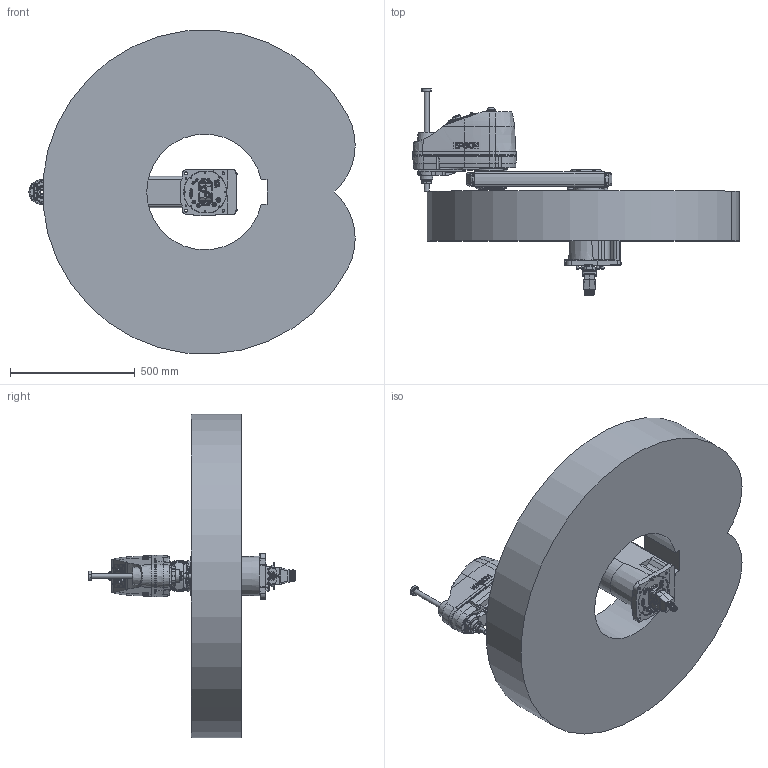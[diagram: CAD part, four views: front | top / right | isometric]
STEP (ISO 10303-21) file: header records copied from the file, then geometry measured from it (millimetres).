
FILE_DESCRIPTION( ( 'STEP AP214' ), '1' );
FILE_NAME( 'C:/Users/9607552/Desktop/GX8-B652SB_straight.stp', '2023-07-07T02:54:56', ( '' ), ( '' ), ' ', 'PARTsolutions', ' ' );
FILE_SCHEMA( ( 'AUTOMOTIVE_DESIGN { 1 0 10303 214 1 1 1 1 }' ) );
Length unit declared in the file: millimetre
Products named in the file (9): GX8-B652SB-SW; _B452SBbasegx8; _B652Sj1arm; _GX8-B652SBj1arm2; _GX8-B652SBj1arm1; _B452S_J2; _B452SZA; _Straight-B; _GX8-25-B_WS
Assembly tree (10 placements, depth 2):
  GX8-B652SB-SW
    _B452SBbasegx8
    _B652Sj1arm
    _GX8-B652SBj1arm2  x2
    _GX8-B652SBj1arm1  x2
    _B452S_J2
    _B452SZA
    _Straight-B
    _GX8-25-B_WS
Bounding box: 1308.1 x 826.85 x 1298.02 mm (x, y, z)
Volume: 249466526.1 mm3; surface area: 4515569.9 mm2
Topology: 10 solids, 11 shells, 2953 faces, 7258 edges, 4739 vertices
Faces by surface type: plane 1469, cylinder 934, cone 386, torus 121, bspline 37, sphere 6
Full cylindrical faces by diameter (mm): 1 x48, 1.18 x55, 2.459 x12, 3 x32, 3.242 x20, 3.3 x5, 3.9 x4, 4 x4, 4.2 x6, 4.5 x4, 4.8 x5, 4.917 x2, 5.34 x4, 5.5 x17, 6 x1, 6.2 x2, 6.647 x4, 6.8 x2, 7 x48, 8 x5, 8.5 x6, 9 x24, 10 x18, 11 x4, 11.2 x7, 11.5 x1, 12 x5, 12.25 x1, 13 x3, 13.2 x12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
Entity records: 105928 total; most frequent: CARTESIAN_POINT 20582, DIRECTION 12926, ORIENTED_EDGE 12084, EDGE_CURVE 6042, AXIS2_PLACEMENT_3D 5010, VERTEX_POINT 4338, EDGE_LOOP 3881, FACE_OUTER_BOUND 3242
